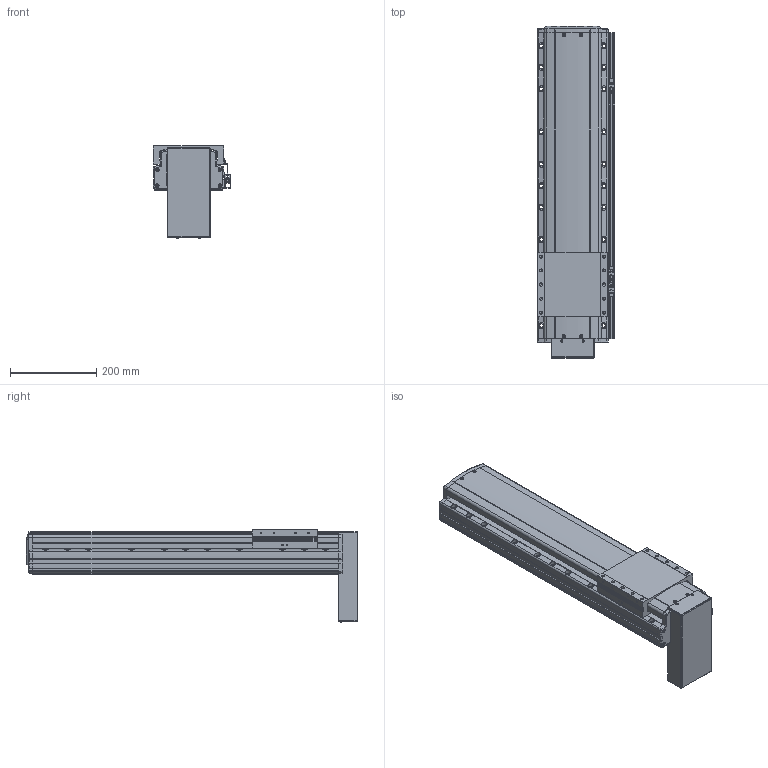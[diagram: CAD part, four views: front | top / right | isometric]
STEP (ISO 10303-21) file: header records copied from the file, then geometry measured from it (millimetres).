
FILE_DESCRIPTION(('STEP AP214'),'1');
FILE_NAME('Z:/Web/3D/PSA165/STP/PSA165-450 (3D)/PSA165ㅁㅁ-450PB+3SR.stp','2014-06-23T11:26:38',(' '),(' '),'Spatial InterOp 3D',' ',' ');
FILE_SCHEMA(('automotive_design'));
Length unit declared in the file: millimetre
Products named in the file (47): 스크루 : Round - M4.0 x 12.0; RRCV-PA160; BASE; 스크루 : Round - M4.0 x 10.0; RN15; Screw 20; SLIDE; FRCV; MTPL CV- PB; 스크루 : Round - M3.0 x 6.0; 1; 2; M3.0 x 6.0; SRL-16x17-360L; SGD-SAN150; EE-SX674; SBK-SX674-352; BHCS M4.0 x 10.0
Bounding box: 181 x 770.8 x 215.96 mm (x, y, z)
Volume: 11144612 mm3; surface area: 864333.1 mm2
Topology: 47 solids, 47 shells, 2632 faces, 7000 edges, 4496 vertices
Faces by surface type: plane 1525, cylinder 764, cone 230, sphere 72, bspline 25, torus 16
Entity records: 106251 total; most frequent: CARTESIAN_POINT 18085, DIRECTION 14043, ORIENTED_EDGE 13724, EDGE_CURVE 6862, AXIS2_PLACEMENT_3D 4714, LINE 4615, VECTOR 4615, VERTEX_POINT 4496
